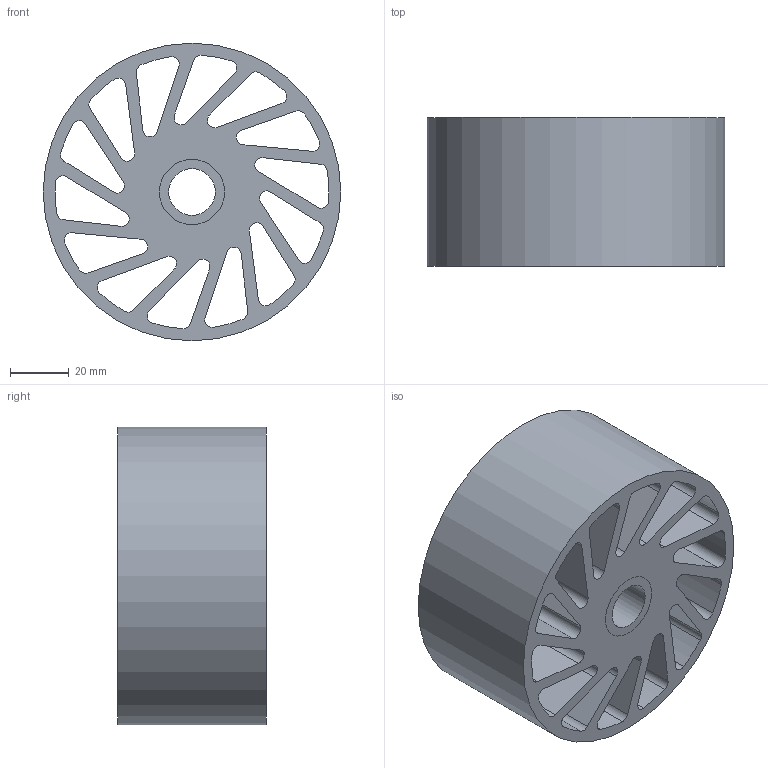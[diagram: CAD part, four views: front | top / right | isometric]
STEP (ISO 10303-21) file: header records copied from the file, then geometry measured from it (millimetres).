
FILE_DESCRIPTION(/* description */ (''),/* implementation_level */ '2;1');
FILE_NAME(/* name */ 'C:\Users\Owner\Desktop\Meridian Stuff\Oilite\NCWOB-410-XXX.stp',/* time_stamp */ '2023-05-22T17:01:01-05:00',/* author */ ('ASG'),/* organization */ ('Meridian Laboratory '),/* preprocessor_version */ 'ST-DEVELOPER v19',/* originating_system */ 'Autodesk Inventor 2023',/* authorisation */ '');
FILE_SCHEMA (('AUTOMOTIVE_DESIGN { 1 0 10303 214 3 1 1 }'));
Length unit declared in the file: inch
Products named in the file (1): NCWOB-340-XXX
Bounding box: 101.6 x 50.8 x 101.6 mm (x, y, z)
Volume: 220814.6 mm3; surface area: 83745.7 mm2
Topology: 2 solids, 2 shells, 92 faces, 264 edges, 176 vertices
Faces by surface type: cylinder 60, plane 32
Full cylindrical faces by diameter (mm): 15.926 x1, 22.225 x2, 101.6 x1
Entity records: 3285 total; most frequent: DIRECTION 570, CARTESIAN_POINT 533, ORIENTED_EDGE 528, EDGE_CURVE 264, AXIS2_PLACEMENT_3D 213, VERTEX_POINT 176, LINE 144, VECTOR 144
